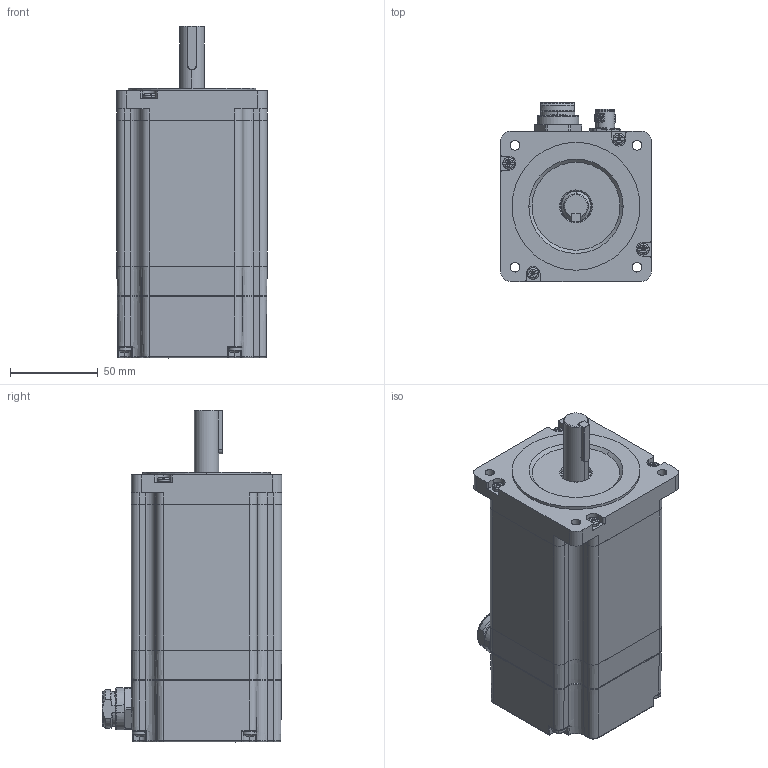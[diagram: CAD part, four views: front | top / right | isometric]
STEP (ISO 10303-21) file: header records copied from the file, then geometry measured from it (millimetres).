
FILE_DESCRIPTION (( 'STEP AP214' ), '1' );
FILE_NAME ('M86SH118-TO0512L05C.STEP', '2025-12-18T08:24:00', ( '' ), ( '' ), 'SwSTEP 2.0', 'SolidWorks 2019', '' );
FILE_SCHEMA (( 'AUTOMOTIVE_DESIGN' ));
Length unit declared in the file: millimetre
Products named in the file (1): M86SH118-TO0512L05C
Bounding box: 85.9 x 102.59 x 189.55 mm (x, y, z)
Volume: 610340.3 mm3; surface area: 185353.8 mm2
Topology: 28 solids, 28 shells, 1951 faces, 5050 edges, 3238 vertices
Faces by surface type: plane 937, cylinder 470, bspline 261, cone 173, torus 94, sphere 16
Entity records: 93797 total; most frequent: CARTESIAN_POINT 25248, ORIENTED_EDGE 10022, DIRECTION 9237, EDGE_CURVE 5011, AXIS2_PLACEMENT_3D 3242, VERTEX_POINT 3238, LINE 2753, VECTOR 2753
